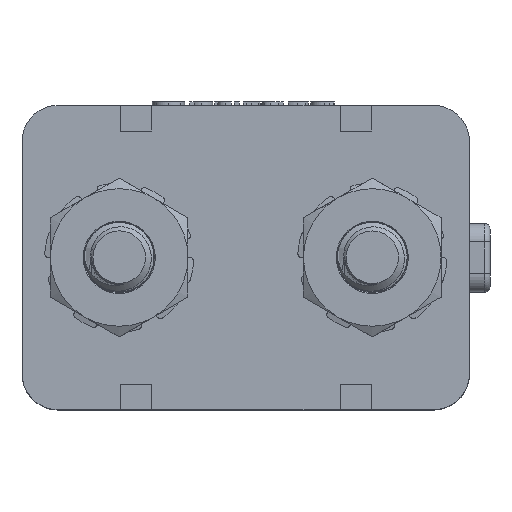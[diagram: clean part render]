
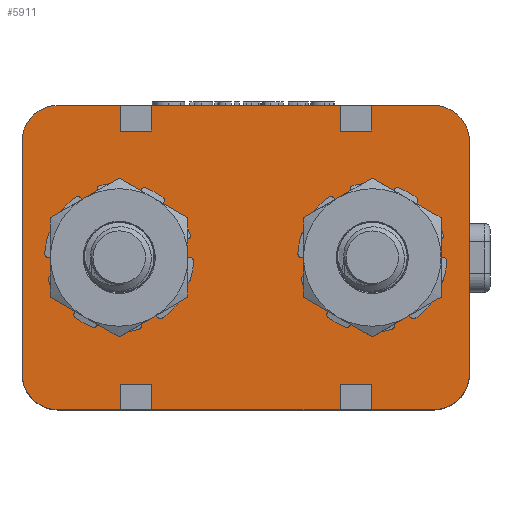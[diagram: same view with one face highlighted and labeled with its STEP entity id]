
A CAD part, top view. The second image highlights one B-rep face of the part: STEP entity #5911.
In plain terms, the highlighted planar face has unit normal (0, 0, 1).
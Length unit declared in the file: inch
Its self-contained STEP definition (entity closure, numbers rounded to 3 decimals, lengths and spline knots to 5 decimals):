
#785=PLANE('',#6269);
#988=FACE_OUTER_BOUND('',#1326,.T.);
#1326=EDGE_LOOP('',(#4824,#4825,#4826,#4827,#4828,#4829,#4830,#4831,#4832,
#4833,#4834,#4835,#4836,#4837,#4838,#4839,#4840,#4841,#4842,#4843,#4844,
#4845,#4846,#4847));
#1745=LINE('',#9466,#2155);
#1748=LINE('',#9472,#2158);
#1752=LINE('',#9479,#2162);
#1755=LINE('',#9487,#2165);
#1758=LINE('',#9493,#2168);
#1762=LINE('',#9500,#2172);
#1765=LINE('',#9508,#2175);
#1768=LINE('',#9514,#2178);
#1772=LINE('',#9521,#2182);
#1775=LINE('',#9527,#2185);
#1776=LINE('',#9530,#2186);
#1788=LINE('',#9560,#2198);
#1790=LINE('',#9563,#2200);
#1791=LINE('',#9567,#2201);
#1792=LINE('',#9571,#2202);
#1793=LINE('',#9573,#2203);
#1794=LINE('',#9575,#2204);
#1795=LINE('',#9576,#2205);
#1796=LINE('',#9578,#2206);
#1797=LINE('',#9582,#2207);
#2155=VECTOR('',#7037,0.3937);
#2158=VECTOR('',#7042,0.3937);
#2162=VECTOR('',#7048,0.3937);
#2165=VECTOR('',#7053,0.3937);
#2168=VECTOR('',#7058,0.3937);
#2172=VECTOR('',#7064,0.3937);
#2175=VECTOR('',#7069,0.3937);
#2178=VECTOR('',#7074,0.3937);
#2182=VECTOR('',#7080,0.3937);
#2185=VECTOR('',#7085,0.3937);
#2186=VECTOR('',#7088,0.3937);
#2198=VECTOR('',#7112,0.3937);
#2200=VECTOR('',#7116,0.3937);
#2201=VECTOR('',#7119,0.3937);
#2202=VECTOR('',#7122,0.3937);
#2203=VECTOR('',#7123,0.3937);
#2204=VECTOR('',#7124,0.3937);
#2205=VECTOR('',#7125,0.3937);
#2206=VECTOR('',#7126,0.3937);
#2207=VECTOR('',#7129,0.3937);
#2331=CIRCLE('',#6270,0.09843);
#2332=CIRCLE('',#6271,0.09843);
#2333=CIRCLE('',#6272,0.09843);
#2334=CIRCLE('',#6273,0.09843);
#2700=VERTEX_POINT('',#9463);
#2701=VERTEX_POINT('',#9465);
#2703=VERTEX_POINT('',#9471);
#2705=VERTEX_POINT('',#9477);
#2708=VERTEX_POINT('',#9484);
#2709=VERTEX_POINT('',#9486);
#2711=VERTEX_POINT('',#9492);
#2713=VERTEX_POINT('',#9498);
#2716=VERTEX_POINT('',#9505);
#2717=VERTEX_POINT('',#9507);
#2719=VERTEX_POINT('',#9513);
#2721=VERTEX_POINT('',#9519);
#2723=VERTEX_POINT('',#9525);
#2724=VERTEX_POINT('',#9529);
#2736=VERTEX_POINT('',#9559);
#2737=VERTEX_POINT('',#9564);
#2738=VERTEX_POINT('',#9566);
#2739=VERTEX_POINT('',#9568);
#2740=VERTEX_POINT('',#9570);
#2741=VERTEX_POINT('',#9572);
#2742=VERTEX_POINT('',#9574);
#2743=VERTEX_POINT('',#9577);
#2744=VERTEX_POINT('',#9579);
#2745=VERTEX_POINT('',#9581);
#3434=EDGE_CURVE('',#2701,#2700,#1745,.T.);
#3437=EDGE_CURVE('',#2703,#2701,#1748,.T.);
#3441=EDGE_CURVE('',#2700,#2705,#1752,.T.);
#3444=EDGE_CURVE('',#2709,#2708,#1755,.T.);
#3447=EDGE_CURVE('',#2711,#2709,#1758,.T.);
#3451=EDGE_CURVE('',#2708,#2713,#1762,.T.);
#3454=EDGE_CURVE('',#2717,#2716,#1765,.T.);
#3457=EDGE_CURVE('',#2719,#2717,#1768,.T.);
#3461=EDGE_CURVE('',#2716,#2721,#1772,.T.);
#3464=EDGE_CURVE('',#2713,#2723,#1775,.T.);
#3465=EDGE_CURVE('',#2724,#2703,#1776,.T.);
#3481=EDGE_CURVE('',#2736,#2719,#1788,.T.);
#3483=EDGE_CURVE('',#2705,#2711,#1790,.T.);
#3484=EDGE_CURVE('',#2737,#2723,#2331,.T.);
#3485=EDGE_CURVE('',#2737,#2738,#1791,.T.);
#3486=EDGE_CURVE('',#2739,#2738,#2332,.T.);
#3487=EDGE_CURVE('',#2739,#2740,#1792,.T.);
#3488=EDGE_CURVE('',#2740,#2741,#1793,.T.);
#3489=EDGE_CURVE('',#2741,#2742,#1794,.T.);
#3490=EDGE_CURVE('',#2742,#2736,#1795,.T.);
#3491=EDGE_CURVE('',#2721,#2743,#1796,.T.);
#3492=EDGE_CURVE('',#2744,#2743,#2333,.T.);
#3493=EDGE_CURVE('',#2744,#2745,#1797,.T.);
#3494=EDGE_CURVE('',#2724,#2745,#2334,.T.);
#4824=ORIENTED_EDGE('',*,*,#3437,.T.);
#4825=ORIENTED_EDGE('',*,*,#3434,.T.);
#4826=ORIENTED_EDGE('',*,*,#3441,.T.);
#4827=ORIENTED_EDGE('',*,*,#3483,.T.);
#4828=ORIENTED_EDGE('',*,*,#3447,.T.);
#4829=ORIENTED_EDGE('',*,*,#3444,.T.);
#4830=ORIENTED_EDGE('',*,*,#3451,.T.);
#4831=ORIENTED_EDGE('',*,*,#3464,.T.);
#4832=ORIENTED_EDGE('',*,*,#3484,.F.);
#4833=ORIENTED_EDGE('',*,*,#3485,.T.);
#4834=ORIENTED_EDGE('',*,*,#3486,.F.);
#4835=ORIENTED_EDGE('',*,*,#3487,.T.);
#4836=ORIENTED_EDGE('',*,*,#3488,.T.);
#4837=ORIENTED_EDGE('',*,*,#3489,.T.);
#4838=ORIENTED_EDGE('',*,*,#3490,.T.);
#4839=ORIENTED_EDGE('',*,*,#3481,.T.);
#4840=ORIENTED_EDGE('',*,*,#3457,.T.);
#4841=ORIENTED_EDGE('',*,*,#3454,.T.);
#4842=ORIENTED_EDGE('',*,*,#3461,.T.);
#4843=ORIENTED_EDGE('',*,*,#3491,.T.);
#4844=ORIENTED_EDGE('',*,*,#3492,.F.);
#4845=ORIENTED_EDGE('',*,*,#3493,.T.);
#4846=ORIENTED_EDGE('',*,*,#3494,.F.);
#4847=ORIENTED_EDGE('',*,*,#3465,.T.);
#5911=ADVANCED_FACE('',(#988),#785,.T.);
#6269=AXIS2_PLACEMENT_3D('',#9562,#7114,#7115);
#6270=AXIS2_PLACEMENT_3D('',#9565,#7117,#7118);
#6271=AXIS2_PLACEMENT_3D('',#9569,#7120,#7121);
#6272=AXIS2_PLACEMENT_3D('',#9580,#7127,#7128);
#6273=AXIS2_PLACEMENT_3D('',#9583,#7130,#7131);
#7037=DIRECTION('',(1.,0.,0.));
#7042=DIRECTION('',(0.,1.,0.));
#7048=DIRECTION('',(0.,-1.,0.));
#7053=DIRECTION('',(1.,0.,0.));
#7058=DIRECTION('',(0.,1.,0.));
#7064=DIRECTION('',(0.,-1.,0.));
#7069=DIRECTION('',(-1.,0.,0.));
#7074=DIRECTION('',(0.,-1.,0.));
#7080=DIRECTION('',(0.,1.,0.));
#7085=DIRECTION('',(1.,0.,0.));
#7088=DIRECTION('',(1.,0.,0.));
#7112=DIRECTION('',(-1.,0.,0.));
#7114=DIRECTION('center_axis',(0.,0.,1.));
#7115=DIRECTION('ref_axis',(1.,0.,0.));
#7116=DIRECTION('',(1.,0.,0.));
#7117=DIRECTION('center_axis',(0.,0.,-1.));
#7118=DIRECTION('ref_axis',(0.707,-0.707,0.));
#7119=DIRECTION('',(0.,1.,0.));
#7120=DIRECTION('center_axis',(0.,0.,-1.));
#7121=DIRECTION('ref_axis',(0.707,0.707,0.));
#7122=DIRECTION('',(-1.,0.,0.));
#7123=DIRECTION('',(0.,-1.,0.));
#7124=DIRECTION('',(-1.,0.,0.));
#7125=DIRECTION('',(0.,1.,0.));
#7126=DIRECTION('',(-1.,0.,0.));
#7127=DIRECTION('center_axis',(0.,0.,-1.));
#7128=DIRECTION('ref_axis',(-0.707,0.707,0.));
#7129=DIRECTION('',(0.,-1.,0.));
#7130=DIRECTION('center_axis',(0.,0.,-1.));
#7131=DIRECTION('ref_axis',(-0.707,-0.707,0.));
#9463=CARTESIAN_POINT('',(0.3525,0.07,0.64));
#9465=CARTESIAN_POINT('',(0.2675,0.07,0.64));
#9466=CARTESIAN_POINT('',(0.43875,0.07,0.64));
#9471=CARTESIAN_POINT('',(0.2675,0.,0.64));
#9472=CARTESIAN_POINT('',(0.2675,0.2075,0.64));
#9477=CARTESIAN_POINT('',(0.3525,0.,0.64));
#9479=CARTESIAN_POINT('',(0.3525,0.2425,0.64));
#9484=CARTESIAN_POINT('',(0.9525,0.07,0.64));
#9486=CARTESIAN_POINT('',(0.8675,0.07,0.64));
#9487=CARTESIAN_POINT('',(0.73875,0.07,0.64));
#9492=CARTESIAN_POINT('',(0.8675,0.,0.64));
#9493=CARTESIAN_POINT('',(0.8675,0.2075,0.64));
#9498=CARTESIAN_POINT('',(0.9525,0.,0.64));
#9500=CARTESIAN_POINT('',(0.9525,0.2425,0.64));
#9505=CARTESIAN_POINT('',(0.2675,0.76,0.64));
#9507=CARTESIAN_POINT('',(0.3525,0.76,0.64));
#9508=CARTESIAN_POINT('',(0.48125,0.76,0.64));
#9513=CARTESIAN_POINT('',(0.3525,0.83,0.64));
#9514=CARTESIAN_POINT('',(0.3525,0.6225,0.64));
#9519=CARTESIAN_POINT('',(0.2675,0.83,0.64));
#9521=CARTESIAN_POINT('',(0.2675,0.5875,0.64));
#9525=CARTESIAN_POINT('',(1.12157,0.,0.64));
#9527=CARTESIAN_POINT('',(1.22,0.,0.64));
#9529=CARTESIAN_POINT('',(0.09843,0.,0.64));
#9530=CARTESIAN_POINT('',(1.22,0.,0.64));
#9559=CARTESIAN_POINT('',(0.8675,0.83,0.64));
#9560=CARTESIAN_POINT('',(0.,0.83,0.64));
#9562=CARTESIAN_POINT('Origin',(0.61,0.415,0.64));
#9563=CARTESIAN_POINT('',(1.22,0.,0.64));
#9564=CARTESIAN_POINT('',(1.22,0.09843,0.64));
#9565=CARTESIAN_POINT('Origin',(1.12157,0.09843,0.64));
#9566=CARTESIAN_POINT('',(1.22,0.73157,0.64));
#9567=CARTESIAN_POINT('',(1.22,0.83,0.64));
#9568=CARTESIAN_POINT('',(1.12157,0.83,0.64));
#9569=CARTESIAN_POINT('Origin',(1.12157,0.73157,0.64));
#9570=CARTESIAN_POINT('',(0.9525,0.83,0.64));
#9571=CARTESIAN_POINT('',(0.,0.83,0.64));
#9572=CARTESIAN_POINT('',(0.9525,0.76,0.64));
#9573=CARTESIAN_POINT('',(0.9525,0.6225,0.64));
#9574=CARTESIAN_POINT('',(0.8675,0.76,0.64));
#9575=CARTESIAN_POINT('',(0.78125,0.76,0.64));
#9576=CARTESIAN_POINT('',(0.8675,0.5875,0.64));
#9577=CARTESIAN_POINT('',(0.09843,0.83,0.64));
#9578=CARTESIAN_POINT('',(0.,0.83,0.64));
#9579=CARTESIAN_POINT('',(0.,0.73157,0.64));
#9580=CARTESIAN_POINT('Origin',(0.09843,0.73157,0.64));
#9581=CARTESIAN_POINT('',(0.,0.09843,0.64));
#9582=CARTESIAN_POINT('',(0.,0.,0.64));
#9583=CARTESIAN_POINT('Origin',(0.09843,0.09843,0.64));
